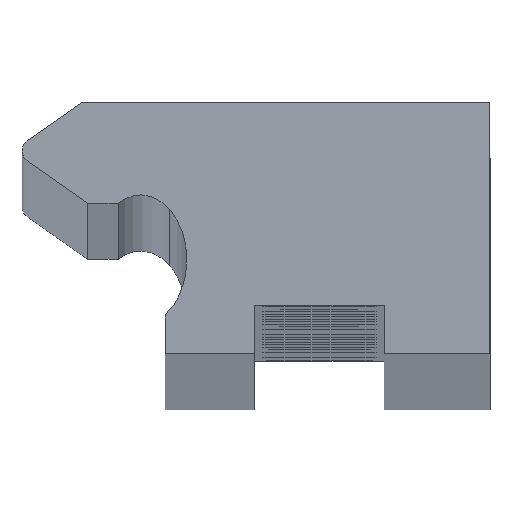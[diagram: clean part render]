
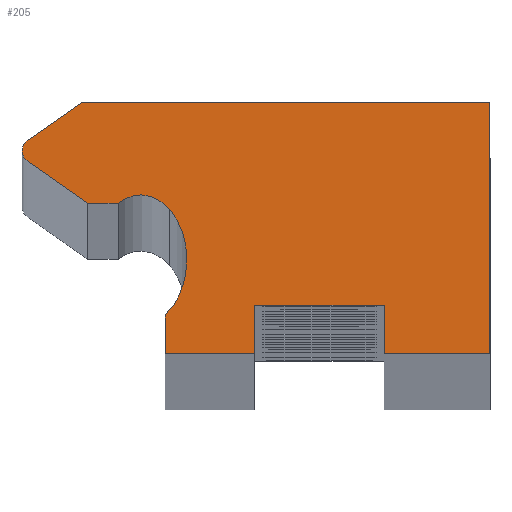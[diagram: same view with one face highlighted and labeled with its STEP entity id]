
A CAD part, top view. The second image highlights one B-rep face of the part: STEP entity #205.
In plain terms, the highlighted planar face has unit normal (0, 0, 1).
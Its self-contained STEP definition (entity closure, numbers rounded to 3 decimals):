
#205=ADVANCED_FACE('',(#533),#534,.F.);
#533=FACE_OUTER_BOUND('',#861,.T.);
#534=PLANE('',#862);
#861=EDGE_LOOP('',(#1876,#1877,#1878,#1879,#1880,#1881,#1882,#1883,#1884,#1885,#1886,#1887,#1888,#1889,#1890,#1891,#1892,#1893,#1894));
#862=AXIS2_PLACEMENT_3D('',#1895,#1896,#1897);
#1876=ORIENTED_EDGE('',*,*,#2218,.F.);
#1877=ORIENTED_EDGE('',*,*,#2172,.F.);
#1878=ORIENTED_EDGE('',*,*,#2176,.F.);
#1879=ORIENTED_EDGE('',*,*,#2179,.F.);
#1880=ORIENTED_EDGE('',*,*,#2182,.F.);
#1881=ORIENTED_EDGE('',*,*,#2185,.F.);
#1882=ORIENTED_EDGE('',*,*,#2187,.F.);
#1883=ORIENTED_EDGE('',*,*,#1903,.F.);
#1884=ORIENTED_EDGE('',*,*,#2190,.F.);
#1885=ORIENTED_EDGE('',*,*,#2193,.F.);
#1886=ORIENTED_EDGE('',*,*,#2196,.F.);
#1887=ORIENTED_EDGE('',*,*,#2199,.T.);
#1888=ORIENTED_EDGE('',*,*,#2202,.T.);
#1889=ORIENTED_EDGE('',*,*,#2205,.T.);
#1890=ORIENTED_EDGE('',*,*,#2206,.T.);
#1891=ORIENTED_EDGE('',*,*,#1901,.T.);
#1892=ORIENTED_EDGE('',*,*,#2210,.T.);
#1893=ORIENTED_EDGE('',*,*,#2213,.F.);
#1894=ORIENTED_EDGE('',*,*,#2216,.F.);
#1895=CARTESIAN_POINT('',(-2.1,8.308,1976.0));
#1896=DIRECTION('',(0.,0.0,-1.0));
#1897=DIRECTION('',(-1.0,0.0,0.));
#1901=EDGE_CURVE('',#2220,#2224,#2226,.T.);
#1903=EDGE_CURVE('',#2227,#2230,#2231,.T.);
#2172=EDGE_CURVE('',#2678,#2680,#2681,.T.);
#2176=EDGE_CURVE('',#2685,#2678,#2687,.T.);
#2179=EDGE_CURVE('',#2690,#2685,#2692,.T.);
#2182=EDGE_CURVE('',#2695,#2690,#2697,.T.);
#2185=EDGE_CURVE('',#2700,#2695,#2702,.T.);
#2187=EDGE_CURVE('',#2230,#2700,#2704,.T.);
#2190=EDGE_CURVE('',#2707,#2227,#2709,.T.);
#2193=EDGE_CURVE('',#2712,#2707,#2714,.T.);
#2196=EDGE_CURVE('',#2717,#2712,#2719,.T.);
#2199=EDGE_CURVE('',#2717,#2722,#2724,.T.);
#2202=EDGE_CURVE('',#2722,#2727,#2729,.T.);
#2205=EDGE_CURVE('',#2727,#2732,#2734,.T.);
#2206=EDGE_CURVE('',#2732,#2220,#2735,.T.);
#2210=EDGE_CURVE('',#2224,#2739,#2741,.T.);
#2213=EDGE_CURVE('',#2744,#2739,#2746,.T.);
#2216=EDGE_CURVE('',#2749,#2744,#2751,.T.);
#2218=EDGE_CURVE('',#2680,#2749,#2753,.T.);
#2220=VERTEX_POINT('',#2755);
#2224=VERTEX_POINT('',#2760);
#2226=CIRCLE('',#2763,5.571);
#2227=VERTEX_POINT('',#2764);
#2230=VERTEX_POINT('',#2768);
#2231=CIRCLE('',#2769,0.76);
#2678=VERTEX_POINT('',#3306);
#2680=VERTEX_POINT('',#3309);
#2681=LINE('',#3310,#3311);
#2685=VERTEX_POINT('',#3317);
#2687=LINE('',#3320,#3321);
#2690=VERTEX_POINT('',#3325);
#2692=LINE('',#3328,#3329);
#2695=VERTEX_POINT('',#3333);
#2697=LINE('',#3336,#3337);
#2700=VERTEX_POINT('',#3341);
#2702=LINE('',#3344,#3345);
#2704=LINE('',#3348,#3349);
#2707=VERTEX_POINT('',#3352);
#2709=CIRCLE('',#3355,0.76);
#2712=VERTEX_POINT('',#3359);
#2714=LINE('',#3362,#3363);
#2717=VERTEX_POINT('',#3367);
#2719=LINE('',#3370,#3371);
#2722=VERTEX_POINT('',#3374);
#2724=CIRCLE('',#3377,2.324);
#2727=VERTEX_POINT('',#3380);
#2729=CIRCLE('',#3383,2.415);
#2732=VERTEX_POINT('',#3386);
#2734=CIRCLE('',#3389,4.249);
#2735=CIRCLE('',#3390,5.571);
#2739=VERTEX_POINT('',#3394);
#2741=CIRCLE('',#3397,3.982);
#2744=VERTEX_POINT('',#3401);
#2746=LINE('',#3404,#3405);
#2749=VERTEX_POINT('',#3409);
#2751=LINE('',#3412,#3413);
#2753=LINE('',#3416,#3417);
#2755=CARTESIAN_POINT('',(-8.17,5.794,1976.0));
#2760=CARTESIAN_POINT('',(-8.39,4.245,1976.0));
#2763=AXIS2_PLACEMENT_3D('',#3423,#3424,#3425);
#2764=CARTESIAN_POINT('',(-18.305,12.5,1976.0));
#2768=CARTESIAN_POINT('',(-17.981,13.123,1976.0));
#2769=AXIS2_PLACEMENT_3D('',#3427,#3428,#3429);
#3306=CARTESIAN_POINT('',(4.,3.0,1976.0));
#3309=CARTESIAN_POINT('',(-4.,3.0,1976.0));
#3310=CARTESIAN_POINT('',(4.,3.0,1976.0));
#3311=VECTOR('',#4052,1.0);
#3317=CARTESIAN_POINT('',(4.,0.0,1976.0));
#3320=CARTESIAN_POINT('',(4.,0.0,1976.0));
#3321=VECTOR('',#4056,1.0);
#3325=CARTESIAN_POINT('',(10.5,0.0,1976.0));
#3328=CARTESIAN_POINT('',(10.5,0.0,1976.0));
#3329=VECTOR('',#4059,1.0);
#3333=CARTESIAN_POINT('',(10.5,15.5,1976.0));
#3336=CARTESIAN_POINT('',(10.5,15.5,1976.0));
#3337=VECTOR('',#4062,1.0);
#3341=CARTESIAN_POINT('',(-14.586,15.5,1976.0));
#3344=CARTESIAN_POINT('',(-14.586,15.5,1976.0));
#3345=VECTOR('',#4065,1.0);
#3348=CARTESIAN_POINT('',(-17.981,13.123,1976.0));
#3349=VECTOR('',#4067,1.0);
#3352=CARTESIAN_POINT('',(-17.981,11.877,1976.0));
#3355=AXIS2_PLACEMENT_3D('',#4072,#4073,#4074);
#3359=CARTESIAN_POINT('',(-14.271,9.28,1976.0));
#3362=CARTESIAN_POINT('',(-14.271,9.28,1976.0));
#3363=VECTOR('',#4077,1.0);
#3367=CARTESIAN_POINT('',(-12.383,9.28,1976.0));
#3370=CARTESIAN_POINT('',(-12.383,9.28,1976.0));
#3371=VECTOR('',#4080,1.0);
#3374=CARTESIAN_POINT('',(-10.932,9.789,1976.0));
#3377=AXIS2_PLACEMENT_3D('',#4085,#4086,#4087);
#3380=CARTESIAN_POINT('',(-9.201,8.878,1976.0));
#3383=AXIS2_PLACEMENT_3D('',#4092,#4093,#4094);
#3386=CARTESIAN_POINT('',(-8.256,6.771,1976.0));
#3389=AXIS2_PLACEMENT_3D('',#4099,#4100,#4101);
#3390=AXIS2_PLACEMENT_3D('',#4102,#4103,#4104);
#3394=CARTESIAN_POINT('',(-9.5,2.398,1976.0));
#3397=AXIS2_PLACEMENT_3D('',#4112,#4113,#4114);
#3401=CARTESIAN_POINT('',(-9.5,0.0,1976.0));
#3404=CARTESIAN_POINT('',(-9.5,0.0,1976.0));
#3405=VECTOR('',#4117,1.0);
#3409=CARTESIAN_POINT('',(-4.,0.0,1976.0));
#3412=CARTESIAN_POINT('',(-4.,0.0,1976.0));
#3413=VECTOR('',#4120,1.0);
#3416=CARTESIAN_POINT('',(-4.,3.0,1976.0));
#3417=VECTOR('',#4122,1.0);
#3423=CARTESIAN_POINT('',(-13.741,5.794,1976.0));
#3424=DIRECTION('',(0.,0.0,-1.0));
#3425=DIRECTION('',(-1.0,0.0,0.));
#3427=CARTESIAN_POINT('',(-17.545,12.5,1976.0));
#3428=DIRECTION('',(0.,0.0,-1.0));
#3429=DIRECTION('',(-1.0,0.0,0.));
#4052=DIRECTION('',(-1.0,0.0,0.));
#4056=DIRECTION('',(0.0,1.0,0.0));
#4059=DIRECTION('',(-1.0,0.0,0.));
#4062=DIRECTION('',(0.0,-1.0,-0.0));
#4065=DIRECTION('',(1.0,0.0,0.));
#4067=DIRECTION('',(0.819,0.574,0.));
#4072=CARTESIAN_POINT('',(-17.545,12.5,1976.0));
#4073=DIRECTION('',(0.,0.0,-1.0));
#4074=DIRECTION('',(-1.0,0.0,0.));
#4077=DIRECTION('',(-0.819,0.574,0.));
#4080=DIRECTION('',(-1.0,0.0,0.));
#4085=CARTESIAN_POINT('',(-10.932,7.465,1976.0));
#4086=DIRECTION('',(0.,0.0,-1.0));
#4087=DIRECTION('',(-1.0,0.0,0.));
#4092=CARTESIAN_POINT('',(-11.095,7.379,1976.0));
#4093=DIRECTION('',(0.,0.0,-1.0));
#4094=DIRECTION('',(-1.0,0.0,0.));
#4099=CARTESIAN_POINT('',(-12.46,6.151,1976.0));
#4100=DIRECTION('',(0.,0.0,-1.0));
#4101=DIRECTION('',(-1.0,0.0,0.));
#4102=CARTESIAN_POINT('',(-13.741,5.794,1976.0));
#4103=DIRECTION('',(0.,0.0,-1.0));
#4104=DIRECTION('',(-1.0,0.0,0.));
#4112=CARTESIAN_POINT('',(-12.23,5.297,1976.0));
#4113=DIRECTION('',(0.,0.0,-1.0));
#4114=DIRECTION('',(-1.0,0.0,0.));
#4117=DIRECTION('',(0.0,1.0,0.0));
#4120=DIRECTION('',(-1.0,0.0,0.));
#4122=DIRECTION('',(0.0,-1.0,-0.0));
